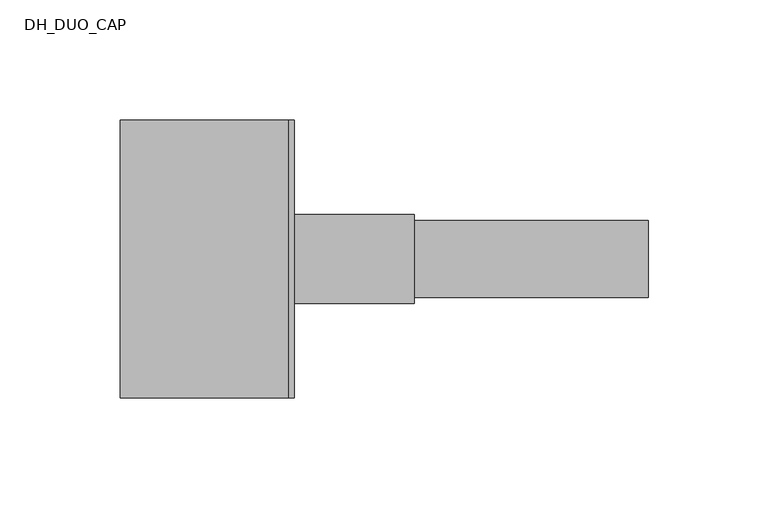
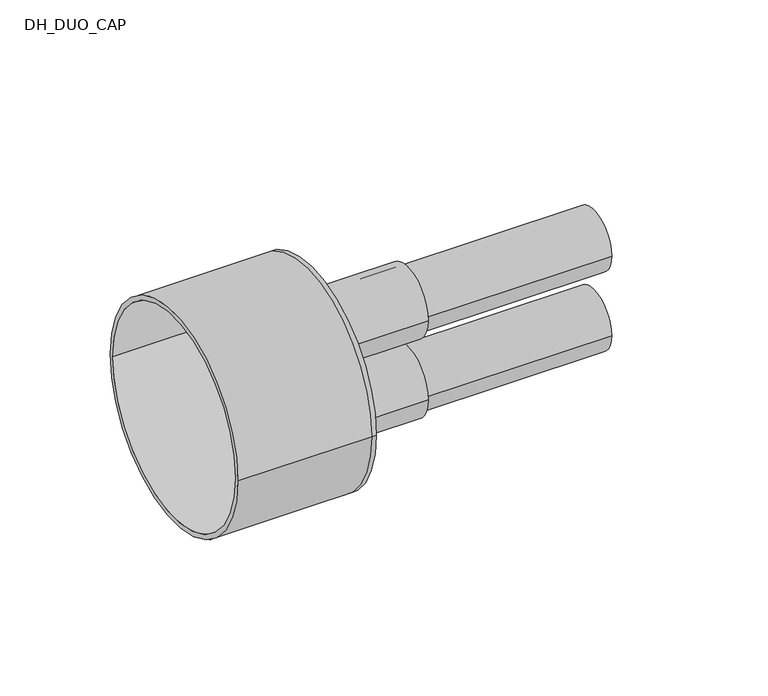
"""IFC4 building model written with IfcOpenShell, lengths in millimetres: pipe fitting geometry, DH_DUO_CAP : RAUTHERMEX DUO 11 Heating - Rubber Cap."""

from ifc_helpers import new_model, si_unit, point, frame, frame_2d, origin, place, context, project, spatial, polyline, circle_curve, trimmed, segment, composite_curve, outline, extrude, source, transform, mapped, element, save
from ifc_brep_helpers import plane_surface, cylinder_surface, revolved_surface, advanced_brep


def dh_duo_cap_a401f0f0(model_context):
    return source(origin(), model_context, "Body", "SolidModel", [
        extrude(outline(composite_curve([segment(trimmed(circle_curve(frame_2d((0.0, -22.0)), 16.0), [point((-16.0, -22.0))], [point((16.0, -22.0))], False, "CARTESIAN"), True, "CONTINUOUS"), segment(trimmed(circle_curve(frame_2d((0.0, -22.0)), 16.0), [point((16.0, -22.0))], [point((-16.0, -22.0))], False, "CARTESIAN"), True, "CONTINUOUS")], self_intersect=False), holes=[composite_curve([segment(trimmed(circle_curve(frame_2d((0.0, -22.0)), 13.1), [point((-13.1, -22.0))], [point((13.1, -22.0))], True, "CARTESIAN"), True, "CONTINUOUS"), segment(trimmed(circle_curve(frame_2d((0.0, -22.0)), 13.1), [point((13.1, -22.0))], [point((-13.1, -22.0))], True, "CARTESIAN"), True, "CONTINUOUS")], self_intersect=False)]), frame((0.0, 0.0, 0.0), z_axis=(1.0, 0.0, 0.0), x_axis=(0.0, 1.0, 0.0)), (0.0, 0.0, 1.0), 150.0),
        extrude(outline(composite_curve([segment(trimmed(circle_curve(frame_2d((0.0, 22.0)), 16.0), [point((-16.0, 22.0))], [point((16.0, 22.0))], False, "CARTESIAN"), True, "CONTINUOUS"), segment(trimmed(circle_curve(frame_2d((0.0, 22.0)), 16.0), [point((16.0, 22.0))], [point((-16.0, 22.0))], False, "CARTESIAN"), True, "CONTINUOUS")], self_intersect=False), holes=[composite_curve([segment(trimmed(circle_curve(frame_2d((0.0, 22.0)), 13.1), [point((-13.1, 22.0))], [point((13.1, 22.0))], True, "CARTESIAN"), True, "CONTINUOUS"), segment(trimmed(circle_curve(frame_2d((0.0, 22.0)), 13.1), [point((13.1, 22.0))], [point((-13.1, 22.0))], True, "CARTESIAN"), True, "CONTINUOUS")], self_intersect=False)]), frame((0.0, 0.0, 0.0), z_axis=(1.0, 0.0, 0.0), x_axis=(0.0, 1.0, 0.0)), (0.0, 0.0, 1.0), 150.0),
        advanced_brep(
        [(-70.0, -58.0, 0.0), (-70.0, 58.0, 0.0), (-70.0, -55.5, 0.0), (-70.0, 55.5, 0.0), (0.0, -55.5, 0.0), (0.0, 55.5, 0.0), (0.0, -58.0, 0.0), (0.0, 58.0, 0.0), (0.0, 16.0, 22.0), (0.0, -16.0, 22.0), (0.0, 16.0, -22.0), (0.0, -16.0, -22.0), (2.5, -58.0, 0.0), (2.5, 58.0, 0.0), (2.5, -16.0, 22.0), (2.5, 16.0, 22.0), (2.5, -16.0, -22.0), (2.5, 16.0, -22.0)],
        [
            (0, 1, circle_curve(frame((-70.0, 0.0, 0.0), z_axis=(-1.0, 0.0, 0.0), x_axis=(0.0, 1.0, 0.0)), 58.0)),
            (1, 0, circle_curve(frame((-70.0, 0.0, 0.0), z_axis=(-1.0, 0.0, 0.0), x_axis=(0.0, 1.0, 0.0)), 58.0)),
            (2, 3, circle_curve(frame((-70.0, 0.0, 0.0), z_axis=(1.0, 0.0, 0.0), x_axis=(0.0, 1.0, 0.0)), 55.5)),
            (3, 2, circle_curve(frame((-70.0, 0.0, 0.0), z_axis=(1.0, 0.0, 0.0), x_axis=(0.0, 1.0, 0.0)), 55.5)),
            (2, 4),
            (4, 5, circle_curve(frame((0.0, 0.0, 0.0), z_axis=(1.0, 0.0, 0.0), x_axis=(0.0, 1.0, 0.0)), 55.5)),
            (5, 3),
            (5, 4, circle_curve(frame((0.0, 0.0, 0.0), z_axis=(1.0, 0.0, 0.0), x_axis=(0.0, 1.0, 0.0)), 55.5)),
            (0, 6),
            (6, 7, circle_curve(frame((0.0, 0.0, 0.0), z_axis=(-1.0, 0.0, 0.0), x_axis=(0.0, 1.0, 0.0)), 58.0)),
            (7, 1),
            (7, 6, circle_curve(frame((0.0, 0.0, 0.0), z_axis=(-1.0, 0.0, 0.0), x_axis=(0.0, 1.0, 0.0)), 58.0)),
            (8, 9, circle_curve(frame((0.0, 0.0, 22.0), z_axis=(1.0, 0.0, 0.0), x_axis=(0.0, 1.0, 0.0)), 16.0)),
            (9, 8, circle_curve(frame((0.0, 0.0, 22.0), z_axis=(1.0, 0.0, 0.0), x_axis=(0.0, 1.0, 0.0)), 16.0)),
            (10, 11, circle_curve(frame((0.0, 0.0, -22.0), z_axis=(1.0, 0.0, 0.0), x_axis=(0.0, 1.0, 0.0)), 16.0)),
            (11, 10, circle_curve(frame((0.0, 0.0, -22.0), z_axis=(1.0, 0.0, 0.0), x_axis=(0.0, 1.0, 0.0)), 16.0)),
            (12, 13, circle_curve(frame((2.5, 0.0, 0.0), z_axis=(1.0, 0.0, 0.0), x_axis=(0.0, 1.0, 0.0)), 58.0)),
            (13, 12, circle_curve(frame((2.5, 0.0, 0.0), z_axis=(1.0, 0.0, 0.0), x_axis=(0.0, 1.0, 0.0)), 58.0)),
            (14, 15, circle_curve(frame((2.5, 0.0, 22.0), z_axis=(-1.0, 0.0, 0.0), x_axis=(0.0, 1.0, 0.0)), 16.0)),
            (15, 14, circle_curve(frame((2.5, 0.0, 22.0), z_axis=(-1.0, 0.0, 0.0), x_axis=(0.0, 1.0, 0.0)), 16.0)),
            (16, 17, circle_curve(frame((2.5, 0.0, -22.0), z_axis=(-1.0, 0.0, 0.0), x_axis=(0.0, 1.0, 0.0)), 16.0)),
            (17, 16, circle_curve(frame((2.5, 0.0, -22.0), z_axis=(-1.0, 0.0, 0.0), x_axis=(0.0, 1.0, 0.0)), 16.0)),
            (13, 7),
            (6, 12),
            (8, 15),
            (14, 9),
            (10, 17),
            (16, 11),
        ],
        [
            plane_surface(frame((-70.0, 0.0, 0.0), z_axis=(-1.0, 0.0, 0.0), x_axis=(0.0, 0.0, 1.0))),
            revolved_surface(polyline([(0.0, 55.5, 0.0), (-70.0, 55.5, 0.0)]), (-70.0, 0.0, 0.0), (1.0, 0.0, 0.0)),
            cylinder_surface(frame((-70.0, 0.0, 0.0), z_axis=(-1.0, 0.0, 0.0), x_axis=(0.0, 1.0, 0.0)), 58.0),
            plane_surface(frame((0.0, 0.0, 0.0), z_axis=(-1.0, 0.0, 0.0), x_axis=(0.0, 0.0, 1.0))),
            plane_surface(frame((2.5, 0.0, 0.0), z_axis=(1.0, 0.0, 0.0), x_axis=(0.0, 0.0, 1.0))),
            cylinder_surface(frame((0.0, 0.0, 0.0), z_axis=(-1.0, 0.0, 0.0), x_axis=(0.0, 1.0, 0.0)), 58.0),
            revolved_surface(polyline([(0.0, 16.0, 22.0), (2.5, 16.0, 22.0)]), (0.0, 0.0, 22.0), (-1.0, 0.0, 0.0)),
            revolved_surface(polyline([(0.0, 16.0, -22.0), (2.5, 16.0, -22.0)]), (0.0, 0.0, -22.0), (-1.0, 0.0, 0.0)),
        ],
        [
            (0, [[1, 2], [3, 4]]),
            (1, [[-3, 5, 6, 7]]),
            (1, [[-4, -7, 8, -5]]),
            (2, [[-1, 9, 10, 11]]),
            (2, [[-2, -11, 12, -9]]),
            (3, [[-6, -8], [13, 14], [15, 16]]),
            (4, [[17, 18], [19, 20], [21, 22]]),
            (5, [[-18, 23, -10, 24]]),
            (5, [[-17, -24, -12, -23]]),
            (6, [[25, -19, 26, -13]]),
            (6, [[-25, -14, -26, -20]]),
            (7, [[27, -21, 28, -15]]),
            (7, [[-27, -16, -28, -22]]),
        ],
    ),
        extrude(outline(composite_curve([segment(trimmed(circle_curve(frame_2d((0.0, -22.0)), 18.5), [point((-18.5, -22.0))], [point((18.5, -22.0))], False, "CARTESIAN"), True, "CONTINUOUS"), segment(trimmed(circle_curve(frame_2d((0.0, -22.0)), 18.5), [point((18.5, -22.0))], [point((-18.5, -22.0))], False, "CARTESIAN"), True, "CONTINUOUS")], self_intersect=False), holes=[composite_curve([segment(trimmed(circle_curve(frame_2d((0.0, -22.0)), 16.0), [point((-16.0, -22.0))], [point((16.0, -22.0))], True, "CARTESIAN"), True, "CONTINUOUS"), segment(trimmed(circle_curve(frame_2d((0.0, -22.0)), 16.0), [point((16.0, -22.0))], [point((-16.0, -22.0))], True, "CARTESIAN"), True, "CONTINUOUS")], self_intersect=False)]), frame((2.5, 0.0, 0.0), z_axis=(1.0, 0.0, 0.0), x_axis=(0.0, 1.0, 0.0)), (0.0, 0.0, 1.0), 50.0),
        extrude(outline(composite_curve([segment(trimmed(circle_curve(frame_2d((0.0, 22.0)), 18.5), [point((-18.5, 22.0))], [point((18.5, 22.0))], False, "CARTESIAN"), True, "CONTINUOUS"), segment(trimmed(circle_curve(frame_2d((0.0, 22.0)), 18.5), [point((18.5, 22.0))], [point((-18.5, 22.0))], False, "CARTESIAN"), True, "CONTINUOUS")], self_intersect=False), holes=[composite_curve([segment(trimmed(circle_curve(frame_2d((0.0, 22.0)), 16.0), [point((-16.0, 22.0))], [point((16.0, 22.0))], True, "CARTESIAN"), True, "CONTINUOUS"), segment(trimmed(circle_curve(frame_2d((0.0, 22.0)), 16.0), [point((16.0, 22.0))], [point((-16.0, 22.0))], True, "CARTESIAN"), True, "CONTINUOUS")], self_intersect=False)]), frame((2.5, 0.0, 0.0), z_axis=(1.0, 0.0, 0.0), x_axis=(0.0, 1.0, 0.0)), (0.0, 0.0, 1.0), 50.0),
    ])


if __name__ == "__main__":
    model = new_model("IFC4")
    model_context = context("Model", 3, world=origin())
    ifc_project = project(units=[si_unit("LENGTHUNIT", "METRE", prefix="MILLI")], contexts=[model_context])
    site = spatial("IfcSite", under=ifc_project)
    building = spatial("IfcBuilding", under=site)
    placement = place(None, origin())
    dh_duo_cap_shape = dh_duo_cap_a401f0f0(model_context)
    element("IfcPipeFitting", 1, ObjectType="DH_DUO_CAP : RAUTHERMEX DUO 11 Heating - Rubber Cap", at=placement, inside=building, context=model_context, shape_type="MappedRepresentation", body=[
        mapped(dh_duo_cap_shape, transform((0.0, 0.0, 0.0), x_axis=(1.0, 0.0, 0.0), y_axis=(0.0, 1.0, 0.0), z_axis=(0.0, 0.0, 1.0))),
    ])
    save(model, "model.ifc")
